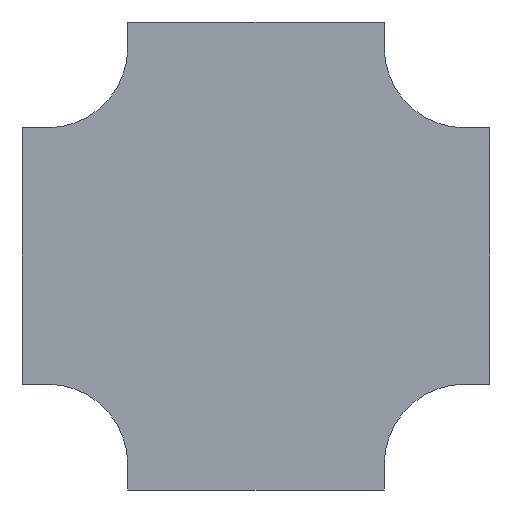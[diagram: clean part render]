
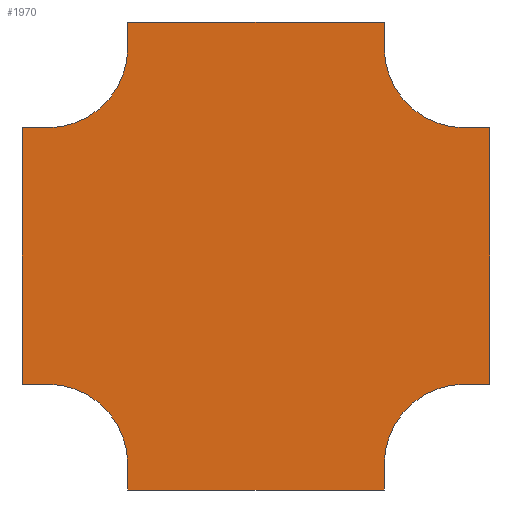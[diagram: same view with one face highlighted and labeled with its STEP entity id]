
A CAD part, front view. The second image highlights one B-rep face of the part: STEP entity #1970.
In plain terms, the highlighted planar face has unit normal (0, -1, 0).
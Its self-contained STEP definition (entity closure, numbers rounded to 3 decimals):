
#67 = LINE ( 'NONE', #2103, #1596 ) ;
#111 = VERTEX_POINT ( 'NONE', #1272 ) ;
#141 = CARTESIAN_POINT ( 'NONE',  ( -690., 0., -125. ) ) ;
#149 = CARTESIAN_POINT ( 'NONE',  ( 0., 0., -525. ) ) ;
#165 = ORIENTED_EDGE ( 'NONE', *, *, #2005, .F. ) ;
#220 = DIRECTION ( 'NONE',  ( 0., -1., 0. ) ) ;
#233 = LINE ( 'NONE', #1509, #2259 ) ;
#262 = ORIENTED_EDGE ( 'NONE', *, *, #1281, .F. ) ;
#288 = VERTEX_POINT ( 'NONE', #2737 ) ;
#322 = VERTEX_POINT ( 'NONE', #141 ) ;
#327 = CARTESIAN_POINT ( 'NONE',  ( 0., 0., 0. ) ) ;
#338 = DIRECTION ( 'NONE',  ( 0., 0., -1. ) ) ;
#344 = CARTESIAN_POINT ( 'NONE',  ( 0., 0., 0. ) ) ;
#368 = VECTOR ( 'NONE', #938, 1000. ) ;
#377 = DIRECTION ( 'NONE',  ( 0., 0., 1. ) ) ;
#393 = ORIENTED_EDGE ( 'NONE', *, *, #1418, .F. ) ;
#411 = LINE ( 'NONE', #1969, #2414 ) ;
#450 = LINE ( 'NONE', #1220, #1133 ) ;
#482 = VECTOR ( 'NONE', #1910, 1000. ) ;
#506 = VERTEX_POINT ( 'NONE', #3279 ) ;
#515 = DIRECTION ( 'NONE',  ( 0., -1., 0. ) ) ;
#539 = CARTESIAN_POINT ( 'NONE',  ( -650., 0., -525. ) ) ;
#573 = DIRECTION ( 'NONE',  ( -1., 0., 0. ) ) ;
#583 = CIRCLE ( 'NONE', #1383, 125. ) ;
#625 = LINE ( 'NONE', #1632, #1009 ) ;
#652 = LINE ( 'NONE', #2484, #482 ) ;
#665 = EDGE_CURVE ( 'NONE', #322, #770, #2004, .T. ) ;
#727 = VERTEX_POINT ( 'NONE', #2749 ) ;
#746 = AXIS2_PLACEMENT_3D ( 'NONE', #3058, #1478, #3026 ) ;
#754 = VERTEX_POINT ( 'NONE', #1318 ) ;
#759 = VERTEX_POINT ( 'NONE', #2573 ) ;
#770 = VERTEX_POINT ( 'NONE', #3018 ) ;
#772 = EDGE_CURVE ( 'NONE', #2993, #1553, #1767, .T. ) ;
#806 = CARTESIAN_POINT ( 'NONE',  ( -125., 0., -690. ) ) ;
#937 = EDGE_CURVE ( 'NONE', #1815, #754, #3245, .T. ) ;
#938 = DIRECTION ( 'NONE',  ( 1., 0., 0. ) ) ;
#1009 = VECTOR ( 'NONE', #377, 1000. ) ;
#1010 = AXIS2_PLACEMENT_3D ( 'NONE', #327, #1595, #338 ) ;
#1133 = VECTOR ( 'NONE', #1740, 1000. ) ;
#1143 = DIRECTION ( 'NONE',  ( 0., 0., -1. ) ) ;
#1154 = ORIENTED_EDGE ( 'NONE', *, *, #2424, .F. ) ;
#1187 = AXIS2_PLACEMENT_3D ( 'NONE', #344, #1371, #1143 ) ;
#1220 = CARTESIAN_POINT ( 'NONE',  ( -125., 0., -690. ) ) ;
#1230 = VECTOR ( 'NONE', #1301, 1000. ) ;
#1266 = EDGE_CURVE ( 'NONE', #1879, #727, #583, .T. ) ;
#1272 = CARTESIAN_POINT ( 'NONE',  ( -525., 0., -690. ) ) ;
#1281 = EDGE_CURVE ( 'NONE', #2541, #111, #67, .T. ) ;
#1300 = ORIENTED_EDGE ( 'NONE', *, *, #2808, .F. ) ;
#1301 = DIRECTION ( 'NONE',  ( 1., 0., 0. ) ) ;
#1318 = CARTESIAN_POINT ( 'NONE',  ( 0., 0., -125. ) ) ;
#1328 = VERTEX_POINT ( 'NONE', #1346 ) ;
#1346 = CARTESIAN_POINT ( 'NONE',  ( -525., 0., -650. ) ) ;
#1371 = DIRECTION ( 'NONE',  ( 0., -1., 0. ) ) ;
#1383 = AXIS2_PLACEMENT_3D ( 'NONE', #2518, #220, #1762 ) ;
#1405 = CARTESIAN_POINT ( 'NONE',  ( -650., 0., -525. ) ) ;
#1418 = EDGE_CURVE ( 'NONE', #759, #322, #1626, .T. ) ;
#1431 = DIRECTION ( 'NONE',  ( 1., 0., 0. ) ) ;
#1478 = DIRECTION ( 'NONE',  ( 0., -1., 0. ) ) ;
#1496 = ORIENTED_EDGE ( 'NONE', *, *, #1684, .F. ) ;
#1509 = CARTESIAN_POINT ( 'NONE',  ( -125., 0., 40. ) ) ;
#1516 = EDGE_CURVE ( 'NONE', #288, #506, #2995, .T. ) ;
#1553 = VERTEX_POINT ( 'NONE', #2249 ) ;
#1559 = CARTESIAN_POINT ( 'NONE',  ( -125., 0., 0. ) ) ;
#1595 = DIRECTION ( 'NONE',  ( 0., -1., 0. ) ) ;
#1596 = VECTOR ( 'NONE', #573, 1000. ) ;
#1623 = FACE_OUTER_BOUND ( 'NONE', #2132, .T. ) ;
#1626 = LINE ( 'NONE', #1843, #2353 ) ;
#1632 = CARTESIAN_POINT ( 'NONE',  ( -525., 0., -690. ) ) ;
#1684 = EDGE_CURVE ( 'NONE', #1553, #1815, #233, .T. ) ;
#1694 = ORIENTED_EDGE ( 'NONE', *, *, #2721, .F. ) ;
#1713 = DIRECTION ( 'NONE',  ( -1., 0., 0. ) ) ;
#1736 = ORIENTED_EDGE ( 'NONE', *, *, #2635, .F. ) ;
#1740 = DIRECTION ( 'NONE',  ( 0., 0., -1. ) ) ;
#1748 = ORIENTED_EDGE ( 'NONE', *, *, #665, .F. ) ;
#1762 = DIRECTION ( 'NONE',  ( 0., 0., 1. ) ) ;
#1767 = LINE ( 'NONE', #2783, #1230 ) ;
#1797 = EDGE_CURVE ( 'NONE', #770, #2798, #2575, .T. ) ;
#1815 = VERTEX_POINT ( 'NONE', #1559 ) ;
#1821 = VECTOR ( 'NONE', #2085, 1000. ) ;
#1843 = CARTESIAN_POINT ( 'NONE',  ( -690., 0., -125. ) ) ;
#1879 = VERTEX_POINT ( 'NONE', #2430 ) ;
#1910 = DIRECTION ( 'NONE',  ( 0., 0., 1. ) ) ;
#1969 = CARTESIAN_POINT ( 'NONE',  ( 0., 0., -125. ) ) ;
#1970 = ADVANCED_FACE ( 'NONE', ( #1623 ), #2646, .T. ) ;
#2004 = LINE ( 'NONE', #2734, #368 ) ;
#2005 = EDGE_CURVE ( 'NONE', #727, #2541, #450, .T. ) ;
#2085 = DIRECTION ( 'NONE',  ( -1., 0., 0. ) ) ;
#2103 = CARTESIAN_POINT ( 'NONE',  ( -525., 0., -690. ) ) ;
#2132 = EDGE_LOOP ( 'NONE', ( #2154, #1694, #2324, #1748, #393, #1736, #1300, #2610, #262, #165, #2641, #3291, #3271, #1154, #2274, #1496 ) ) ;
#2154 = ORIENTED_EDGE ( 'NONE', *, *, #772, .F. ) ;
#2169 = CARTESIAN_POINT ( 'NONE',  ( 40., 0., -125. ) ) ;
#2249 = CARTESIAN_POINT ( 'NONE',  ( -125., 0., 40. ) ) ;
#2259 = VECTOR ( 'NONE', #2533, 1000. ) ;
#2271 = CARTESIAN_POINT ( 'NONE',  ( -525., 0., 0. ) ) ;
#2274 = ORIENTED_EDGE ( 'NONE', *, *, #937, .F. ) ;
#2324 = ORIENTED_EDGE ( 'NONE', *, *, #1797, .F. ) ;
#2326 = EDGE_CURVE ( 'NONE', #111, #1328, #625, .T. ) ;
#2327 = VERTEX_POINT ( 'NONE', #1405 ) ;
#2353 = VECTOR ( 'NONE', #2399, 1000. ) ;
#2399 = DIRECTION ( 'NONE',  ( 0., 0., 1. ) ) ;
#2414 = VECTOR ( 'NONE', #1431, 1000. ) ;
#2424 = EDGE_CURVE ( 'NONE', #754, #288, #411, .T. ) ;
#2430 = CARTESIAN_POINT ( 'NONE',  ( 0., 0., -525. ) ) ;
#2447 = LINE ( 'NONE', #149, #3042 ) ;
#2484 = CARTESIAN_POINT ( 'NONE',  ( -525., 0., 40. ) ) ;
#2518 = CARTESIAN_POINT ( 'NONE',  ( 0., 0., -650. ) ) ;
#2533 = DIRECTION ( 'NONE',  ( 0., 0., -1. ) ) ;
#2541 = VERTEX_POINT ( 'NONE', #806 ) ;
#2573 = CARTESIAN_POINT ( 'NONE',  ( -690., 0., -525. ) ) ;
#2575 = CIRCLE ( 'NONE', #2835, 125. ) ;
#2610 = ORIENTED_EDGE ( 'NONE', *, *, #2326, .F. ) ;
#2614 = DIRECTION ( 'NONE',  ( 0., 0., 1. ) ) ;
#2635 = EDGE_CURVE ( 'NONE', #2327, #759, #2830, .T. ) ;
#2641 = ORIENTED_EDGE ( 'NONE', *, *, #1266, .F. ) ;
#2646 = PLANE ( 'NONE',  #1187 ) ;
#2672 = EDGE_CURVE ( 'NONE', #506, #1879, #2447, .T. ) ;
#2708 = DIRECTION ( 'NONE',  ( 0., 0., -1. ) ) ;
#2721 = EDGE_CURVE ( 'NONE', #2798, #2993, #652, .T. ) ;
#2734 = CARTESIAN_POINT ( 'NONE',  ( -650., 0., -125. ) ) ;
#2737 = CARTESIAN_POINT ( 'NONE',  ( 40., 0., -125. ) ) ;
#2749 = CARTESIAN_POINT ( 'NONE',  ( -125., 0., -650. ) ) ;
#2783 = CARTESIAN_POINT ( 'NONE',  ( -525., 0., 40. ) ) ;
#2798 = VERTEX_POINT ( 'NONE', #2271 ) ;
#2806 = CARTESIAN_POINT ( 'NONE',  ( -650., 0., 0. ) ) ;
#2808 = EDGE_CURVE ( 'NONE', #1328, #2327, #3045, .T. ) ;
#2830 = LINE ( 'NONE', #539, #1821 ) ;
#2835 = AXIS2_PLACEMENT_3D ( 'NONE', #2806, #515, #2614 ) ;
#2993 = VERTEX_POINT ( 'NONE', #3136 ) ;
#2995 = LINE ( 'NONE', #2169, #3295 ) ;
#3018 = CARTESIAN_POINT ( 'NONE',  ( -650., 0., -125. ) ) ;
#3026 = DIRECTION ( 'NONE',  ( 0., 0., -1. ) ) ;
#3042 = VECTOR ( 'NONE', #1713, 1000. ) ;
#3045 = CIRCLE ( 'NONE', #746, 125. ) ;
#3058 = CARTESIAN_POINT ( 'NONE',  ( -650., 0., -650. ) ) ;
#3136 = CARTESIAN_POINT ( 'NONE',  ( -525., 0., 40. ) ) ;
#3245 = CIRCLE ( 'NONE', #1010, 125. ) ;
#3271 = ORIENTED_EDGE ( 'NONE', *, *, #1516, .F. ) ;
#3279 = CARTESIAN_POINT ( 'NONE',  ( 40., 0., -525. ) ) ;
#3291 = ORIENTED_EDGE ( 'NONE', *, *, #2672, .F. ) ;
#3295 = VECTOR ( 'NONE', #2708, 1000. ) ;
